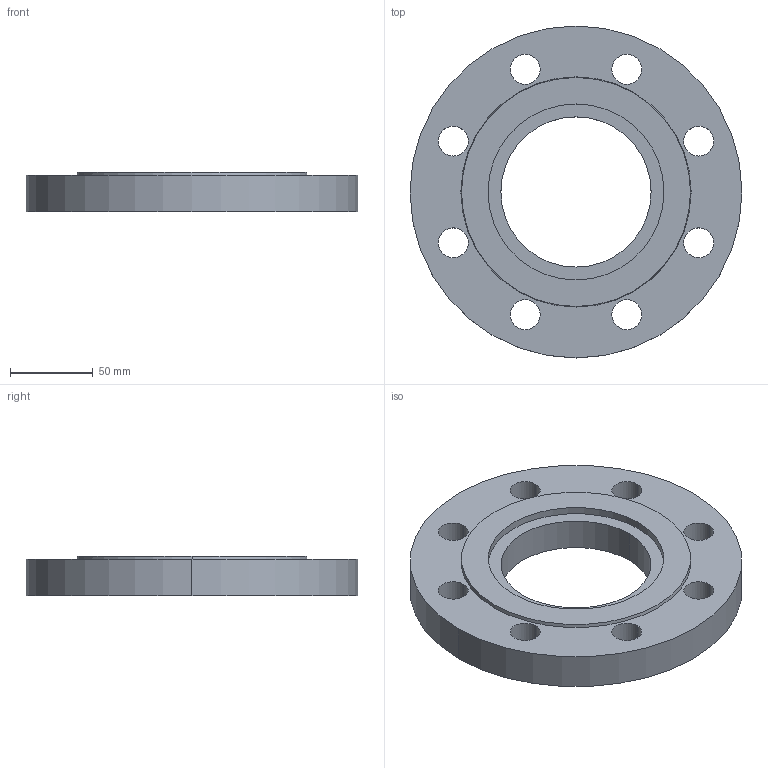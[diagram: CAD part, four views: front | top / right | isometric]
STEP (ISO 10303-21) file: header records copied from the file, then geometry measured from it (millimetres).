
FILE_DESCRIPTION (( 'STEP AP214' ), '1' );
FILE_NAME ('PN40 DN80 Type 01 - Type G Face.STEP', '2019-01-01T19:47:22', ( '' ), ( '' ), 'SwSTEP 2.0', 'SolidWorks 2019', '' );
FILE_SCHEMA (( 'AUTOMOTIVE_DESIGN' ));
Length unit declared in the file: millimetre
Products named in the file (1): PN40 DN80 Type 01 - Type G Face
Bounding box: 200 x 200 x 24 mm (x, y, z)
Volume: 511284.1 mm3; surface area: 77442.8 mm2
Topology: 1 solids, 1 shells, 28 faces, 72 edges, 48 vertices
Faces by surface type: cylinder 22, plane 4, cone 2
Entity records: 954 total; most frequent: DIRECTION 178, CARTESIAN_POINT 149, ORIENTED_EDGE 144, AXIS2_PLACEMENT_3D 77, EDGE_CURVE 72, CIRCLE 48, EDGE_LOOP 48, VERTEX_POINT 48
